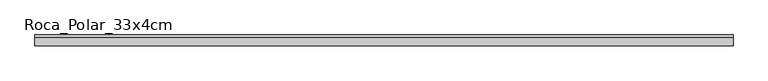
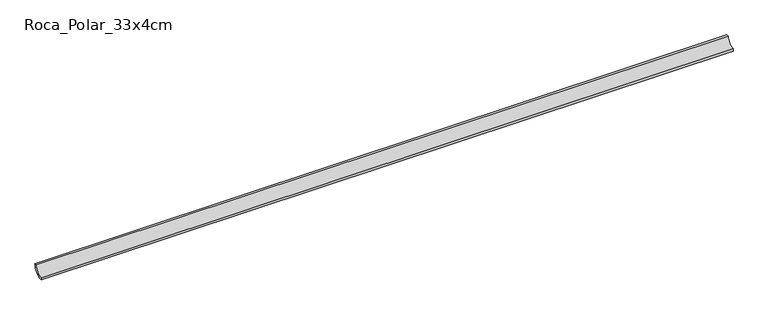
"""IFC4 building model written with IfcOpenShell, lengths in millimetres: proxy geometry, EXAGRES - Half Round Coving : Roca_Polar_33x4cm."""

from ifc_helpers import new_model, si_unit, point, frame, frame_2d, origin, place, context, project, spatial, polyline, circle_curve, trimmed, segment, composite_curve, outline, extrude, source, transform, mapped, element, save


def roca_polar_33x4cm_2f643e7a(model_context):
    return source(origin(), model_context, "Body", "SweptSolid", [
        extrude(outline(composite_curve([segment(polyline([(0.0, 23.9), (6.4, 23.9)]), True, "CONTINUOUS"), segment(trimmed(circle_curve(frame_2d((-23.9, 23.9)), 30.3), [point((6.4, 23.9))], [point((-23.9, -6.4))], False, "CARTESIAN"), True, "CONTINUOUS"), segment(polyline([(-23.9, -6.4), (-23.9, 0.0)]), True, "CONTINUOUS"), segment(trimmed(circle_curve(frame_2d((-23.9, 23.9)), 23.9), [point((-23.9, 0.0))], [point((0.0, 23.9))], True, "CARTESIAN"), True, "CONTINUOUS")], self_intersect=False)), frame((23.9, 0.0, 0.0), z_axis=(1.0, 0.0, 0.0), x_axis=(0.0, 1.0, 0.0)), (0.0, 0.0, 1.0), 1976.1),
    ])


if __name__ == "__main__":
    model = new_model("IFC4")
    model_context = context("Model", 3, world=origin())
    ifc_project = project(units=[si_unit("LENGTHUNIT", "METRE", prefix="MILLI")], contexts=[model_context])
    site = spatial("IfcSite", under=ifc_project)
    building = spatial("IfcBuilding", under=site)
    placement = place(None, origin())
    roca_polar_33x4cm_shape = roca_polar_33x4cm_2f643e7a(model_context)
    element("IfcBuildingElementProxy", 1, Name="EXAGRES - Half Round Coving : Roca_Polar_33x4cm", ObjectType="EXAGRES - Half Round Coving : Roca_Polar_33x4cm", at=placement, inside=building, context=model_context, shape_type="MappedRepresentation", body=[
        mapped(roca_polar_33x4cm_shape, transform((0.0, 0.0, 0.0), x_axis=(1.0, 0.0, 0.0), y_axis=(0.0, 1.0, 0.0), z_axis=(0.0, 0.0, 1.0))),
    ])
    save(model, "model.ifc")
